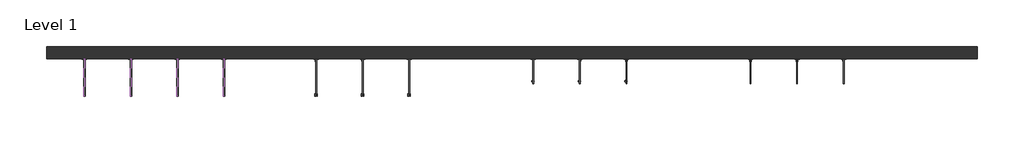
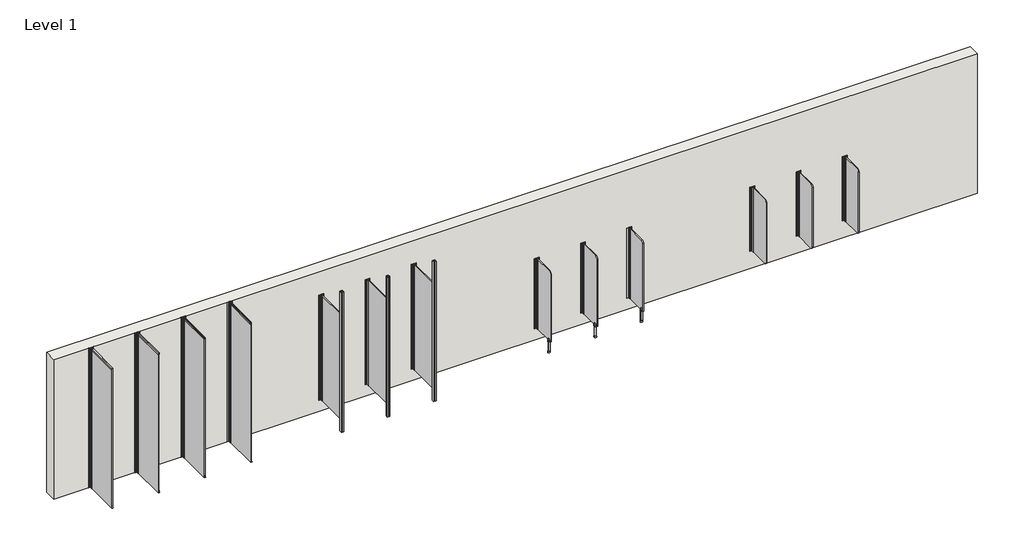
# One storey, incomplete: 40 furniture elements, 1 wall.
"""IFC4 building model written with IfcOpenShell, lengths in millimetres."""

from ifc_helpers import new_model, si_unit, origin, origin_with_axes, place, context, project, spatial, polyline, outline, extrude, transform, mapped, element, save
from components import standard_4e63757f, standard_75b0d6d5, standard_78bdb009, standard_3d746f33, standard_2d2cdbe9, standard_e7b9e4ba, standard_36b0fdc9, standard_87710da8, standard_aac5732c, standard_24bc576b, standard_a42f8bc6, standard_7e390e6c

model = new_model("IFC4")

# Units and contexts
model_context = context("Model", 3, world=origin())
ifc_project = project(units=[si_unit("LENGTHUNIT", "METRE", prefix="MILLI")], contexts=[model_context])

# Site, building, storey
site = spatial("IfcSite", under=ifc_project)
building = spatial("IfcBuilding", under=site)
storey = spatial("IfcBuildingStorey", under=building, Name="Level 1", Elevation=0.0)

# Furniture
placement = place(None, origin())
standard_shape = standard_4e63757f(model_context)
element("IfcFurniture", 1, ObjectType="X_Partition-Channel-Duracube-Ceiling : Standard", at=placement, inside=storey, context=model_context, shape_type="MappedRepresentation", body=[
    mapped(standard_shape, transform((-14160.6588488, 1025.4143395, 2374.0), x_axis=(0.0, -1.0000000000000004, 0.0), y_axis=(1.0000000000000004, 0.0, 0.0), z_axis=(0.0, 0.0, 1.0))),
])
element("IfcFurniture", 2, ObjectType="X_Partition-Channel-Duracube-Ceiling : Standard", at=placement, inside=storey, context=model_context, shape_type="MappedRepresentation", body=[
    mapped(standard_shape, transform((-11910.6588488, 1025.4143395, 2374.0), x_axis=(0.0, -1.0000000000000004, 0.0), y_axis=(1.0000000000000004, 0.0, 0.0), z_axis=(0.0, 0.0, 1.0))),
])
element("IfcFurniture", 3, ObjectType="X_Partition-Channel-Duracube-Ceiling : Standard", at=placement, inside=storey, context=model_context, shape_type="MappedRepresentation", body=[
    mapped(standard_shape, transform((-12660.6588488, 1025.4143395, 2374.0), x_axis=(0.0, -1.0, 0.0), y_axis=(1.0, 0.0, 0.0), z_axis=(0.0, 0.0, 1.0))),
])
element("IfcFurniture", 4, ObjectType="X_Partition-Channel-Duracube-Ceiling : Standard", at=placement, inside=storey, context=model_context, shape_type="MappedRepresentation", body=[
    mapped(standard_shape, transform((-13410.6588488, 1025.4143395, 2374.0), x_axis=(0.0, -1.0, 0.0), y_axis=(1.0, 0.0, 0.0), z_axis=(0.0, 0.0, 1.0))),
])
standard_2_shape = standard_75b0d6d5(model_context)
element("IfcFurniture", 5, ObjectType="X_Partition-Channel-Duracube-Floor : Standard", at=placement, inside=storey, context=model_context, shape_type="MappedRepresentation", body=[
    mapped(standard_2_shape, transform((-14145.6588488, 1025.4143395, 0.0), x_axis=(0.0, -1.0000000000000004, 0.0), y_axis=(1.0000000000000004, 0.0, 0.0), z_axis=(0.0, 0.0, 1.0))),
])
element("IfcFurniture", 6, ObjectType="X_Partition-Channel-Duracube-Floor : Standard", at=placement, inside=storey, context=model_context, shape_type="MappedRepresentation", body=[
    mapped(standard_2_shape, transform((-11895.6588488, 1025.4143395, 0.0), x_axis=(0.0, -1.0000000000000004, 0.0), y_axis=(1.0000000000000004, 0.0, 0.0), z_axis=(0.0, 0.0, 1.0))),
])
element("IfcFurniture", 7, ObjectType="X_Partition-Channel-Duracube-Floor : Standard", at=placement, inside=storey, context=model_context, shape_type="MappedRepresentation", body=[
    mapped(standard_2_shape, transform((-12645.6588488, 1025.4143395, 0.0), x_axis=(0.0, -1.0, 0.0), y_axis=(1.0, 0.0, 0.0), z_axis=(0.0, 0.0, 1.0))),
])
element("IfcFurniture", 8, ObjectType="X_Partition-Channel-Duracube-Floor : Standard", at=placement, inside=storey, context=model_context, shape_type="MappedRepresentation", body=[
    mapped(standard_2_shape, transform((-13395.6588488, 1025.4143395, 0.0), x_axis=(0.0, -1.0, 0.0), y_axis=(1.0, 0.0, 0.0), z_axis=(0.0, 0.0, 1.0))),
])
standard_3_shape = standard_78bdb009(model_context)
element("IfcFurniture", 9, ObjectType="X_Partition-Channel-Duracube-Post : Standard", at=placement, inside=storey, context=model_context, shape_type="MappedRepresentation", body=[
    mapped(standard_3_shape, transform((-8912.1588488, 745.4143395, 0.0), x_axis=(0.0, -1.0, 0.0), y_axis=(1.0, 0.0, 0.0), z_axis=(0.0, 0.0, 1.0))),
])
element("IfcFurniture", 10, ObjectType="X_Partition-Channel-Duracube-Post : Standard", at=placement, inside=storey, context=model_context, shape_type="MappedRepresentation", body=[
    mapped(standard_3_shape, transform((-10412.1588488, 745.4143395, 0.0), x_axis=(0.0, -1.0, 0.0), y_axis=(1.0, 0.0, 0.0), z_axis=(0.0, 0.0, 1.0))),
])
element("IfcFurniture", 11, ObjectType="X_Partition-Channel-Duracube-Post : Standard", at=placement, inside=storey, context=model_context, shape_type="MappedRepresentation", body=[
    mapped(standard_3_shape, transform((-9662.1588488, 745.4143395, 0.0), x_axis=(0.0, -1.0, 0.0), y_axis=(1.0, 0.0, 0.0), z_axis=(0.0, 0.0, 1.0))),
])
standard_4_shape = standard_3d746f33(model_context)
element("IfcFurniture", 12, ObjectType="X_Partition-Foot-Duracube-Assembly : Standard", at=placement, inside=storey, context=model_context, shape_type="MappedRepresentation", body=[
    mapped(standard_4_shape, transform((-5458.6588488, 876.0136866, 0.0), x_axis=(0.0, 1.0000000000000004, 0.0), y_axis=(-1.0000000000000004, 0.0, 0.0), z_axis=(0.0, 0.0, 1.0))),
])
element("IfcFurniture", 13, ObjectType="X_Partition-Foot-Duracube-Assembly : Standard", at=placement, inside=storey, context=model_context, shape_type="MappedRepresentation", body=[
    mapped(standard_4_shape, transform((-6958.6588488, 876.0136866, 0.0), x_axis=(0.0, 1.0000000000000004, 0.0), y_axis=(-1.0000000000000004, 0.0, 0.0), z_axis=(0.0, 0.0, 1.0))),
])
element("IfcFurniture", 14, ObjectType="X_Partition-Foot-Duracube-Assembly : Standard", at=placement, inside=storey, context=model_context, shape_type="MappedRepresentation", body=[
    mapped(standard_4_shape, transform((-6208.6588488, 876.0136866, 0.0), x_axis=(0.0, 1.0000000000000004, 0.0), y_axis=(-1.0000000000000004, 0.0, 0.0), z_axis=(0.0, 0.0, 1.0))),
])
standard_5_shape = standard_2d2cdbe9(model_context)
element("IfcFurniture", 15, ObjectType="X_Partition-Channel-Duracube-Urinal Divider : Standard", at=placement, inside=storey, context=model_context, shape_type="MappedRepresentation", body=[
    mapped(standard_5_shape, transform((-14162.6588488, 1303.4143395, 0.0), x_axis=(0.0, -1.0000000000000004, 0.0), y_axis=(1.0000000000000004, 0.0, 0.0), z_axis=(0.0, 0.0, 1.0))),
])
element("IfcFurniture", 16, ObjectType="X_Partition-Channel-Duracube-Urinal Divider : Standard", at=placement, inside=storey, context=model_context, shape_type="MappedRepresentation", body=[
    mapped(standard_5_shape, transform((-11912.6588488, 1303.4143395, 0.0), x_axis=(0.0, -1.0000000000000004, 0.0), y_axis=(1.0000000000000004, 0.0, 0.0), z_axis=(0.0, 0.0, 1.0))),
])
element("IfcFurniture", 17, ObjectType="X_Partition-Channel-Duracube-Urinal Divider : Standard", at=placement, inside=storey, context=model_context, shape_type="MappedRepresentation", body=[
    mapped(standard_5_shape, transform((-12662.6588488, 1303.4143395, 0.0), x_axis=(0.0, -1.0, 0.0), y_axis=(1.0, 0.0, 0.0), z_axis=(0.0, 0.0, 1.0))),
])
element("IfcFurniture", 18, ObjectType="X_Partition-Channel-Duracube-Urinal Divider : Standard", at=placement, inside=storey, context=model_context, shape_type="MappedRepresentation", body=[
    mapped(standard_5_shape, transform((-13412.6588488, 1303.4143395, 0.0), x_axis=(0.0, -1.0, 0.0), y_axis=(1.0, 0.0, 0.0), z_axis=(0.0, 0.0, 1.0))),
])
standard_6_shape = standard_e7b9e4ba(model_context)
element("IfcFurniture", 19, ObjectType="X_Partition-Channel-Duracube-Urinal Divider : Standard", at=placement, inside=storey, context=model_context, shape_type="MappedRepresentation", body=[
    mapped(standard_6_shape, transform((-8925.6588488, 1303.4143395, 0.0), x_axis=(0.0, -1.0, 0.0), y_axis=(1.0, 0.0, 0.0), z_axis=(0.0, 0.0, 1.0))),
])
element("IfcFurniture", 20, ObjectType="X_Partition-Channel-Duracube-Urinal Divider : Standard", at=placement, inside=storey, context=model_context, shape_type="MappedRepresentation", body=[
    mapped(standard_6_shape, transform((-10425.6588488, 1303.4143395, 0.0), x_axis=(0.0, -1.0, 0.0), y_axis=(1.0, 0.0, 0.0), z_axis=(0.0, 0.0, 1.0))),
])
element("IfcFurniture", 21, ObjectType="X_Partition-Channel-Duracube-Urinal Divider : Standard", at=placement, inside=storey, context=model_context, shape_type="MappedRepresentation", body=[
    mapped(standard_6_shape, transform((-9675.6588488, 1303.4143395, 0.0), x_axis=(0.0, -1.0, 0.0), y_axis=(1.0, 0.0, 0.0), z_axis=(0.0, 0.0, 1.0))),
])
standard_7_shape = standard_36b0fdc9(model_context)
element("IfcFurniture", 22, ObjectType="X_Partition-Channel-Duracube-Urinal Divider : Standard", at=placement, inside=storey, context=model_context, shape_type="MappedRepresentation", body=[
    mapped(standard_7_shape, transform((-5425.6588488, 1303.4143395, 0.0), x_axis=(0.0, -1.0, 0.0), y_axis=(1.0, 0.0, 0.0), z_axis=(0.0, 0.0, 1.0))),
])
element("IfcFurniture", 23, ObjectType="X_Partition-Channel-Duracube-Urinal Divider : Standard", at=placement, inside=storey, context=model_context, shape_type="MappedRepresentation", body=[
    mapped(standard_7_shape, transform((-6925.6588488, 1303.4143395, 0.0), x_axis=(0.0, -1.0, 0.0), y_axis=(1.0, 0.0, 0.0), z_axis=(0.0, 0.0, 1.0))),
])
element("IfcFurniture", 24, ObjectType="X_Partition-Channel-Duracube-Urinal Divider : Standard", at=placement, inside=storey, context=model_context, shape_type="MappedRepresentation", body=[
    mapped(standard_7_shape, transform((-6175.6588488, 1303.4143395, 0.0), x_axis=(0.0, -1.0, 0.0), y_axis=(1.0, 0.0, 0.0), z_axis=(0.0, 0.0, 1.0))),
])
standard_8_shape = standard_87710da8(model_context)
element("IfcFurniture", 25, ObjectType="X_Partition-Channel-Duracube-Urinal Divider : Standard", at=placement, inside=storey, context=model_context, shape_type="MappedRepresentation", body=[
    mapped(standard_8_shape, transform((-1925.6588488, 1303.4143395, 0.0), x_axis=(0.0, -1.0, 0.0), y_axis=(1.0, 0.0, 0.0), z_axis=(0.0, 0.0, 1.0))),
])
element("IfcFurniture", 26, ObjectType="X_Partition-Channel-Duracube-Urinal Divider : Standard", at=placement, inside=storey, context=model_context, shape_type="MappedRepresentation", body=[
    mapped(standard_8_shape, transform((-3425.6588488, 1303.4143395, 0.0), x_axis=(0.0, -1.0, 0.0), y_axis=(1.0, 0.0, 0.0), z_axis=(0.0, 0.0, 1.0))),
])
element("IfcFurniture", 27, ObjectType="X_Partition-Channel-Duracube-Urinal Divider : Standard", at=placement, inside=storey, context=model_context, shape_type="MappedRepresentation", body=[
    mapped(standard_8_shape, transform((-2675.6588488, 1303.4143395, 0.0), x_axis=(0.0, -1.0, 0.0), y_axis=(1.0, 0.0, 0.0), z_axis=(0.0, 0.0, 1.0))),
])
standard_9_shape = standard_aac5732c(model_context)
element("IfcFurniture", 28, ObjectType="X_Partition-Compact Laminate-Duracube-Urinal : Standard", at=placement, inside=storey, context=model_context, shape_type="MappedRepresentation", body=[
    mapped(standard_9_shape, transform((-14162.6588488, 1025.4143395, 0.0), x_axis=(0.0, -1.0000000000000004, 0.0), y_axis=(1.0000000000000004, 0.0, 0.0), z_axis=(0.0, 0.0, 1.0))),
])
element("IfcFurniture", 29, ObjectType="X_Partition-Compact Laminate-Duracube-Urinal : Standard", at=placement, inside=storey, context=model_context, shape_type="MappedRepresentation", body=[
    mapped(standard_9_shape, transform((-11912.6588488, 1025.4143395, 0.0), x_axis=(0.0, -1.0000000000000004, 0.0), y_axis=(1.0000000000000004, 0.0, 0.0), z_axis=(0.0, 0.0, 1.0))),
])
element("IfcFurniture", 30, ObjectType="X_Partition-Compact Laminate-Duracube-Urinal : Standard", at=placement, inside=storey, context=model_context, shape_type="MappedRepresentation", body=[
    mapped(standard_9_shape, transform((-12662.6588488, 1025.4143395, 0.0), x_axis=(0.0, -1.0, 0.0), y_axis=(1.0, 0.0, 0.0), z_axis=(0.0, 0.0, 1.0))),
])
element("IfcFurniture", 31, ObjectType="X_Partition-Compact Laminate-Duracube-Urinal : Standard", at=placement, inside=storey, context=model_context, shape_type="MappedRepresentation", body=[
    mapped(standard_9_shape, transform((-13412.6588488, 1025.4143395, 0.0), x_axis=(0.0, -1.0, 0.0), y_axis=(1.0, 0.0, 0.0), z_axis=(0.0, 0.0, 1.0))),
])
standard_10_shape = standard_24bc576b(model_context)
element("IfcFurniture", 32, ObjectType="X_Partition-Compact Laminate-Duracube-Urinal : Standard", at=placement, inside=storey, context=model_context, shape_type="MappedRepresentation", body=[
    mapped(standard_10_shape, transform((-8925.6588488, 1025.4143395, 0.0), x_axis=(0.0, -1.0, 0.0), y_axis=(1.0, 0.0, 0.0), z_axis=(0.0, 0.0, 1.0))),
])
element("IfcFurniture", 33, ObjectType="X_Partition-Compact Laminate-Duracube-Urinal : Standard", at=placement, inside=storey, context=model_context, shape_type="MappedRepresentation", body=[
    mapped(standard_10_shape, transform((-10425.6588488, 1025.4143395, 0.0), x_axis=(0.0, -1.0, 0.0), y_axis=(1.0, 0.0, 0.0), z_axis=(0.0, 0.0, 1.0))),
])
element("IfcFurniture", 34, ObjectType="X_Partition-Compact Laminate-Duracube-Urinal : Standard", at=placement, inside=storey, context=model_context, shape_type="MappedRepresentation", body=[
    mapped(standard_10_shape, transform((-9675.6588488, 1025.4143395, 0.0), x_axis=(0.0, -1.0, 0.0), y_axis=(1.0, 0.0, 0.0), z_axis=(0.0, 0.0, 1.0))),
])
standard_11_shape = standard_a42f8bc6(model_context)
element("IfcFurniture", 35, ObjectType="X_Partition-Compact Laminate-Duracube-Urinal : Standard", at=placement, inside=storey, context=model_context, shape_type="MappedRepresentation", body=[
    mapped(standard_11_shape, transform((-1925.6588488, 1125.4143395, 0.0), x_axis=(0.0, -1.0, 0.0), y_axis=(1.0, 0.0, 0.0), z_axis=(0.0, 0.0, 1.0))),
])
element("IfcFurniture", 36, ObjectType="X_Partition-Compact Laminate-Duracube-Urinal : Standard", at=placement, inside=storey, context=model_context, shape_type="MappedRepresentation", body=[
    mapped(standard_11_shape, transform((-3425.6588488, 1125.4143395, 0.0), x_axis=(0.0, -1.0, 0.0), y_axis=(1.0, 0.0, 0.0), z_axis=(0.0, 0.0, 1.0))),
])
element("IfcFurniture", 37, ObjectType="X_Partition-Compact Laminate-Duracube-Urinal : Standard", at=placement, inside=storey, context=model_context, shape_type="MappedRepresentation", body=[
    mapped(standard_11_shape, transform((-2675.6588488, 1125.4143395, 0.0), x_axis=(0.0, -1.0, 0.0), y_axis=(1.0, 0.0, 0.0), z_axis=(0.0, 0.0, 1.0))),
])
standard_12_shape = standard_7e390e6c(model_context)
element("IfcFurniture", 38, ObjectType="X_Partition-Compact Laminate-Duracube-Urinal : Standard", at=placement, inside=storey, context=model_context, shape_type="MappedRepresentation", body=[
    mapped(standard_12_shape, transform((-5425.6588488, 1125.4143395, 0.0), x_axis=(0.0, -1.0, 0.0), y_axis=(1.0, 0.0, 0.0), z_axis=(0.0, 0.0, 1.0))),
])
element("IfcFurniture", 39, ObjectType="X_Partition-Compact Laminate-Duracube-Urinal : Standard", at=placement, inside=storey, context=model_context, shape_type="MappedRepresentation", body=[
    mapped(standard_12_shape, transform((-6925.6588488, 1125.4143395, 0.0), x_axis=(0.0, -1.0, 0.0), y_axis=(1.0, 0.0, 0.0), z_axis=(0.0, 0.0, 1.0))),
])
element("IfcFurniture", 40, ObjectType="X_Partition-Compact Laminate-Duracube-Urinal : Standard", at=placement, inside=storey, context=model_context, shape_type="MappedRepresentation", body=[
    mapped(standard_12_shape, transform((-6175.6588488, 1125.4143395, 0.0), x_axis=(0.0, -1.0, 0.0), y_axis=(1.0, 0.0, 0.0), z_axis=(0.0, 0.0, 1.0))),
])

# Wall
element("IfcWall", 41, ObjectType="Generic - 200mm", at=placement, inside=storey, context=model_context, shape_type="SweptSolid", body=[
    extrude(outline(polyline([(224.3411512, 1280.7140131), (-14775.6588488, 1280.7140131), (-14775.6588488, 1480.7140131), (224.3411512, 1480.7140131), (224.3411512, 1280.7140131)])), origin_with_axes(), (0.0, 0.0, 1.0), 2400.0),
])

save(model, "model.ifc")
